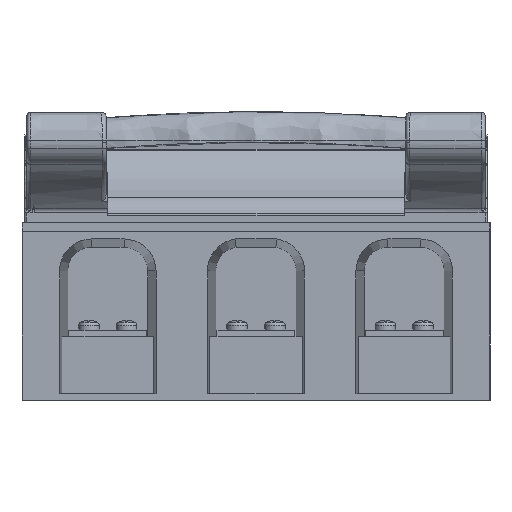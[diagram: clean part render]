
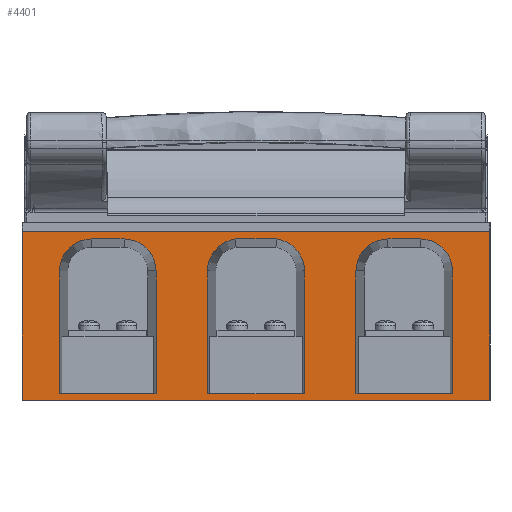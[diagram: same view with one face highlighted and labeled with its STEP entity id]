
A CAD part, left-side view. The second image highlights one B-rep face of the part: STEP entity #4401.
In plain terms, the highlighted planar face has unit normal (-1, 0, 0).
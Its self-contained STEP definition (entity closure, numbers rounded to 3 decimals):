
#912=FACE_BOUND('',#10330,.T.);
#913=FACE_BOUND('',#10331,.T.);
#914=FACE_BOUND('',#10332,.T.);
#915=FACE_BOUND('',#10333,.T.);
#1786=CIRCLE('',#40822,12.394);
#1787=CIRCLE('',#40823,12.394);
#1788=CIRCLE('',#40824,12.289);
#1789=CIRCLE('',#40825,12.289);
#1790=CIRCLE('',#40826,12.289);
#1791=CIRCLE('',#40827,12.289);
#4401=ADVANCED_FACE('',(#912,#913,#914,#915),#6415,.F.);
#6415=PLANE('',#40828);
#10330=EDGE_LOOP('',(#15995,#15996,#15997,#15998,#15999,#16000));
#10331=EDGE_LOOP('',(#16001,#16002,#16003,#16004,#16005,#16006));
#10332=EDGE_LOOP('',(#16007,#16008,#16009,#16010));
#10333=EDGE_LOOP('',(#16011,#16012,#16013,#16014,#16015,#16016));
#15995=ORIENTED_EDGE('',*,*,#30378,.T.);
#15996=ORIENTED_EDGE('',*,*,#28978,.T.);
#15997=ORIENTED_EDGE('',*,*,#30379,.T.);
#15998=ORIENTED_EDGE('',*,*,#30380,.F.);
#15999=ORIENTED_EDGE('',*,*,#30381,.F.);
#16000=ORIENTED_EDGE('',*,*,#30382,.T.);
#16001=ORIENTED_EDGE('',*,*,#30383,.F.);
#16002=ORIENTED_EDGE('',*,*,#30384,.F.);
#16003=ORIENTED_EDGE('',*,*,#30385,.T.);
#16004=ORIENTED_EDGE('',*,*,#30386,.T.);
#16005=ORIENTED_EDGE('',*,*,#30387,.T.);
#16006=ORIENTED_EDGE('',*,*,#30388,.T.);
#16007=ORIENTED_EDGE('',*,*,#30353,.T.);
#16008=ORIENTED_EDGE('',*,*,#30351,.T.);
#16009=ORIENTED_EDGE('',*,*,#30268,.T.);
#16010=ORIENTED_EDGE('',*,*,#28825,.F.);
#16011=ORIENTED_EDGE('',*,*,#28985,.F.);
#16012=ORIENTED_EDGE('',*,*,#30389,.F.);
#16013=ORIENTED_EDGE('',*,*,#30390,.T.);
#16014=ORIENTED_EDGE('',*,*,#30391,.T.);
#16015=ORIENTED_EDGE('',*,*,#28982,.T.);
#16016=ORIENTED_EDGE('',*,*,#30392,.T.);
#25017=VERTEX_POINT('',#55444);
#25024=VERTEX_POINT('',#55457);
#25174=VERTEX_POINT('',#56038);
#25176=VERTEX_POINT('',#56055);
#25178=VERTEX_POINT('',#56060);
#25180=VERTEX_POINT('',#56064);
#25182=VERTEX_POINT('',#56070);
#25183=VERTEX_POINT('',#56072);
#25971=VERTEX_POINT('',#59779);
#25981=VERTEX_POINT('',#60377);
#26006=VERTEX_POINT('',#60431);
#26007=VERTEX_POINT('',#60433);
#26008=VERTEX_POINT('',#60435);
#26009=VERTEX_POINT('',#60437);
#26010=VERTEX_POINT('',#60440);
#26011=VERTEX_POINT('',#60441);
#26012=VERTEX_POINT('',#60443);
#26013=VERTEX_POINT('',#60445);
#26014=VERTEX_POINT('',#60447);
#26015=VERTEX_POINT('',#60449);
#26016=VERTEX_POINT('',#60452);
#26017=VERTEX_POINT('',#60454);
#28825=EDGE_CURVE('',#25024,#25017,#34740,.T.);
#28978=EDGE_CURVE('',#25174,#25176,#34830,.T.);
#28982=EDGE_CURVE('',#25178,#25180,#34834,.T.);
#28985=EDGE_CURVE('',#25182,#25183,#34837,.T.);
#30268=EDGE_CURVE('',#25971,#25017,#35530,.T.);
#30351=EDGE_CURVE('',#25981,#25971,#35545,.T.);
#30353=EDGE_CURVE('',#25024,#25981,#35547,.T.);
#30378=EDGE_CURVE('',#26006,#25174,#1786,.T.);
#30379=EDGE_CURVE('',#25176,#26007,#1787,.T.);
#30380=EDGE_CURVE('',#26008,#26007,#35560,.T.);
#30381=EDGE_CURVE('',#26009,#26008,#35561,.T.);
#30382=EDGE_CURVE('',#26009,#26006,#35562,.T.);
#30383=EDGE_CURVE('',#26010,#26011,#35563,.T.);
#30384=EDGE_CURVE('',#26012,#26010,#35564,.T.);
#30385=EDGE_CURVE('',#26012,#26013,#35565,.T.);
#30386=EDGE_CURVE('',#26013,#26014,#1788,.T.);
#30387=EDGE_CURVE('',#26014,#26015,#35566,.T.);
#30388=EDGE_CURVE('',#26015,#26011,#1789,.T.);
#30389=EDGE_CURVE('',#26016,#25182,#35567,.T.);
#30390=EDGE_CURVE('',#26016,#26017,#35568,.T.);
#30391=EDGE_CURVE('',#26017,#25178,#1790,.T.);
#30392=EDGE_CURVE('',#25180,#25183,#1791,.T.);
#34740=LINE('',#55458,#37219);
#34830=LINE('',#56056,#37309);
#34834=LINE('',#56065,#37313);
#34837=LINE('',#56071,#37316);
#35530=LINE('',#59782,#38009);
#35545=LINE('',#60376,#38024);
#35547=LINE('',#60380,#38026);
#35560=LINE('',#60434,#38039);
#35561=LINE('',#60436,#38040);
#35562=LINE('',#60438,#38041);
#35563=LINE('',#60439,#38042);
#35564=LINE('',#60442,#38043);
#35565=LINE('',#60444,#38044);
#35566=LINE('',#60448,#38045);
#35567=LINE('',#60451,#38046);
#35568=LINE('',#60453,#38047);
#37219=VECTOR('',#44120,1.);
#37309=VECTOR('',#44290,1.);
#37313=VECTOR('',#44296,1.);
#37316=VECTOR('',#44301,1.);
#38009=VECTOR('',#46758,1.);
#38024=VECTOR('',#47111,1.);
#38026=VECTOR('',#47115,1.);
#38039=VECTOR('',#47158,1.);
#38040=VECTOR('',#47159,1.);
#38041=VECTOR('',#47160,1.);
#38042=VECTOR('',#47161,1.);
#38043=VECTOR('',#47162,1.);
#38044=VECTOR('',#47163,1.);
#38045=VECTOR('',#47166,1.);
#38046=VECTOR('',#47169,1.);
#38047=VECTOR('',#47170,1.);
#40822=AXIS2_PLACEMENT_3D('',#60430,#47154,#47155);
#40823=AXIS2_PLACEMENT_3D('',#60432,#47156,#47157);
#40824=AXIS2_PLACEMENT_3D('',#60446,#47164,#47165);
#40825=AXIS2_PLACEMENT_3D('',#60450,#47167,#47168);
#40826=AXIS2_PLACEMENT_3D('',#60455,#47171,#47172);
#40827=AXIS2_PLACEMENT_3D('',#60456,#47173,#47174);
#40828=AXIS2_PLACEMENT_3D('',#60457,#47175,#47176);
#44120=DIRECTION('',(0.,0.,1.));
#44290=DIRECTION('',(0.,-1.,0.));
#44296=DIRECTION('',(0.,-1.,0.));
#44301=DIRECTION('',(0.,0.,1.));
#46758=DIRECTION('',(0.,1.,0.));
#47111=DIRECTION('',(0.,0.,1.));
#47115=DIRECTION('',(0.,-1.,0.));
#47154=DIRECTION('',(1.,0.,0.));
#47155=DIRECTION('',(0.,0.,-1.));
#47156=DIRECTION('',(1.,0.,0.));
#47157=DIRECTION('',(0.,0.,-1.));
#47158=DIRECTION('',(0.,0.,1.));
#47159=DIRECTION('',(0.,-1.,0.));
#47160=DIRECTION('',(0.,0.,1.));
#47161=DIRECTION('',(0.,0.,1.));
#47162=DIRECTION('',(0.,-1.,0.));
#47163=DIRECTION('',(0.,0.,1.));
#47164=DIRECTION('',(1.,0.,0.));
#47165=DIRECTION('',(0.,0.,-1.));
#47166=DIRECTION('',(0.,-1.,0.));
#47167=DIRECTION('',(1.,0.,0.));
#47168=DIRECTION('',(0.,0.,-1.));
#47169=DIRECTION('',(0.,-1.,0.));
#47170=DIRECTION('',(0.,0.,1.));
#47171=DIRECTION('',(1.,0.,0.));
#47172=DIRECTION('',(0.,0.,-1.));
#47173=DIRECTION('',(1.,0.,0.));
#47174=DIRECTION('',(0.,0.,-1.));
#47175=DIRECTION('',(1.,0.,0.));
#47176=DIRECTION('',(0.,1.,0.));
#55444=CARTESIAN_POINT('',(-103.372,99.784,177.006));
#55457=CARTESIAN_POINT('',(-103.372,99.784,112.088));
#55458=CARTESIAN_POINT('',(-103.372,99.784,117.088));
#56038=CARTESIAN_POINT('',(-103.372,17.643,174.128));
#56055=CARTESIAN_POINT('',(-103.372,1.926,174.128));
#56056=CARTESIAN_POINT('',(-103.372,95.284,174.128));
#56060=CARTESIAN_POINT('',(-103.372,-40.966,174.128));
#56064=CARTESIAN_POINT('',(-103.372,-53.466,174.128));
#56065=CARTESIAN_POINT('',(-103.372,95.284,174.128));
#56070=CARTESIAN_POINT('',(-103.372,-65.755,114.588));
#56071=CARTESIAN_POINT('',(-103.372,-65.755,203.088));
#56072=CARTESIAN_POINT('',(-103.372,-65.755,161.838));
#59779=CARTESIAN_POINT('',(-103.372,-80.216,177.006));
#59782=CARTESIAN_POINT('',(-103.372,95.284,177.006));
#60376=CARTESIAN_POINT('',(-103.372,-80.216,117.088));
#60377=CARTESIAN_POINT('',(-103.372,-80.216,112.088));
#60380=CARTESIAN_POINT('',(-103.372,95.284,112.088));
#60430=CARTESIAN_POINT('',(-103.372,16.034,161.838));
#60431=CARTESIAN_POINT('',(-103.372,28.429,161.838));
#60432=CARTESIAN_POINT('',(-103.372,3.534,161.838));
#60433=CARTESIAN_POINT('',(-103.372,-8.86,161.838));
#60434=CARTESIAN_POINT('',(-103.372,-8.86,203.088));
#60435=CARTESIAN_POINT('',(-103.372,-8.86,114.588));
#60436=CARTESIAN_POINT('',(-103.372,95.284,114.588));
#60437=CARTESIAN_POINT('',(-103.372,28.429,114.588));
#60438=CARTESIAN_POINT('',(-103.372,28.429,203.088));
#60439=CARTESIAN_POINT('',(-103.372,48.245,203.088));
#60440=CARTESIAN_POINT('',(-103.372,48.245,114.588));
#60441=CARTESIAN_POINT('',(-103.372,48.245,161.838));
#60442=CARTESIAN_POINT('',(-103.372,95.284,114.588));
#60443=CARTESIAN_POINT('',(-103.372,85.324,114.588));
#60444=CARTESIAN_POINT('',(-103.372,85.324,203.088));
#60445=CARTESIAN_POINT('',(-103.372,85.324,161.838));
#60446=CARTESIAN_POINT('',(-103.372,73.034,161.838));
#60447=CARTESIAN_POINT('',(-103.372,73.034,174.128));
#60448=CARTESIAN_POINT('',(-103.372,95.284,174.128));
#60449=CARTESIAN_POINT('',(-103.372,60.534,174.128));
#60450=CARTESIAN_POINT('',(-103.372,60.534,161.838));
#60451=CARTESIAN_POINT('',(-103.372,95.284,114.588));
#60452=CARTESIAN_POINT('',(-103.372,-28.676,114.588));
#60453=CARTESIAN_POINT('',(-103.372,-28.676,203.088));
#60454=CARTESIAN_POINT('',(-103.372,-28.676,161.838));
#60455=CARTESIAN_POINT('',(-103.372,-40.966,161.838));
#60456=CARTESIAN_POINT('',(-103.372,-53.466,161.838));
#60457=CARTESIAN_POINT('',(-103.372,95.284,203.088));
